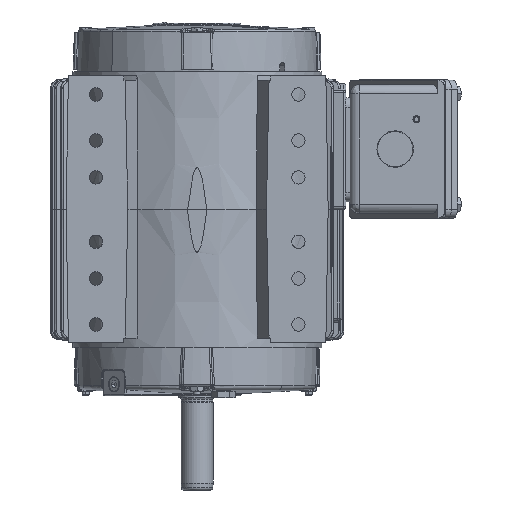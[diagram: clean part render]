
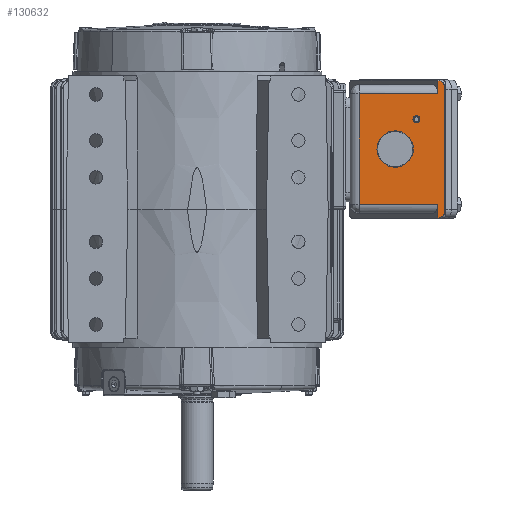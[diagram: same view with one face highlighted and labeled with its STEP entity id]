
A CAD part, front view. The second image highlights one B-rep face of the part: STEP entity #130632.
In plain terms, the highlighted planar face has unit normal (0, -1, 0).
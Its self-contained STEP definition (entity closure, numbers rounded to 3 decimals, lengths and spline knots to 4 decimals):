
#925 = CIRCLE ( 'NONE', #30164, 0.4944 ) ;
#1580 = VECTOR ( 'NONE', #94507, 39.3701 ) ;
#2651 = EDGE_CURVE ( 'NONE', #49224, #108018, #30765, .T. ) ;
#4221 = VERTEX_POINT ( 'NONE', #102777 ) ;
#8962 =( BOUNDED_CURVE ( )  B_SPLINE_CURVE ( 3, ( #96762, #84800, #53580, #128429 ),
 .UNSPECIFIED., .F., .F. ) 
 B_SPLINE_CURVE_WITH_KNOTS ( ( 4, 4 ),
 ( 0., 1.2505 ),
 .UNSPECIFIED. ) 
 CURVE ( )  GEOMETRIC_REPRESENTATION_ITEM ( )  RATIONAL_B_SPLINE_CURVE ( ( 1., 0.874, 0.874, 1. ) ) 
 REPRESENTATION_ITEM ( '' )  );
#9051 = CARTESIAN_POINT ( 'NONE',  ( 4.4, -1.9204, -4.8364 ) ) ;
#14725 = DIRECTION ( 'NONE',  ( 0., -1., 0. ) ) ;
#16265 = CARTESIAN_POINT ( 'NONE',  ( 4.8856, -1.9204, -3.0864 ) ) ;
#17088 = AXIS2_PLACEMENT_3D ( 'NONE', #32318, #33235, #96086 ) ;
#19066 = EDGE_LOOP ( 'NONE', ( #72896, #45988 ) ) ;
#20671 = CARTESIAN_POINT ( 'NONE',  ( 4.4, -1.9204, -4.5864 ) ) ;
#23873 = ORIENTED_EDGE ( 'NONE', *, *, #130715, .F. ) ;
#24650 = CARTESIAN_POINT ( 'NONE',  ( 6.709, -1.9204, -1.3364 ) ) ;
#25687 = FACE_BOUND ( 'NONE', #19066, .T. ) ;
#28395 = LINE ( 'NONE', #82391, #133494 ) ;
#28485 = AXIS2_PLACEMENT_3D ( 'NONE', #9051, #81896, #83664 ) ;
#29483 = CARTESIAN_POINT ( 'NONE',  ( 6.5446, -1.9204, -4.8464 ) ) ;
#30164 = AXIS2_PLACEMENT_3D ( 'NONE', #63322, #83964, #75214 ) ;
#30656 = EDGE_CURVE ( 'NONE', #55733, #43367, #28395, .T. ) ;
#30765 = LINE ( 'NONE', #100606, #73380 ) ;
#31780 = VECTOR ( 'NONE', #37449, 39.3701 ) ;
#32318 = CARTESIAN_POINT ( 'NONE',  ( 5.96, -1.9204, -2.2764 ) ) ;
#33111 = VECTOR ( 'NONE', #128602, 39.3701 ) ;
#33215 = LINE ( 'NONE', #29483, #67739 ) ;
#33235 = DIRECTION ( 'NONE',  ( 0., -1., 0. ) ) ;
#33444 = ORIENTED_EDGE ( 'NONE', *, *, #2651, .T. ) ;
#33547 = CARTESIAN_POINT ( 'NONE',  ( 5.865, -1.9204, -2.2764 ) ) ;
#34231 = VERTEX_POINT ( 'NONE', #129952 ) ;
#34721 = AXIS2_PLACEMENT_3D ( 'NONE', #56392, #14725, #66075 ) ;
#36118 = EDGE_CURVE ( 'NONE', #108018, #43367, #52270, .T. ) ;
#37449 = DIRECTION ( 'NONE',  ( 1., 0., 0. ) ) ;
#37756 = DIRECTION ( 'NONE',  ( 0., 0., -1. ) ) ;
#37779 =( BOUNDED_CURVE ( )  B_SPLINE_CURVE ( 3, ( #106570, #64788, #106135, #42799 ),
 .UNSPECIFIED., .F., .F. ) 
 B_SPLINE_CURVE_WITH_KNOTS ( ( 4, 4 ),
 ( 5.0327, 6.2832 ),
 .UNSPECIFIED. ) 
 CURVE ( )  GEOMETRIC_REPRESENTATION_ITEM ( )  RATIONAL_B_SPLINE_CURVE ( ( 1., 0.874, 0.874, 1. ) ) 
 REPRESENTATION_ITEM ( '' )  );
#39987 = CARTESIAN_POINT ( 'NONE',  ( 4.4, -1.9204, -4.5864 ) ) ;
#39990 = EDGE_CURVE ( 'NONE', #56580, #113308, #129901, .T. ) ;
#42799 = CARTESIAN_POINT ( 'NONE',  ( 6.709, -1.9204, -4.8464 ) ) ;
#43367 = VERTEX_POINT ( 'NONE', #55664 ) ;
#45651 = CARTESIAN_POINT ( 'NONE',  ( 5.38, -1.9204, -3.0864 ) ) ;
#45988 = ORIENTED_EDGE ( 'NONE', *, *, #39990, .F. ) ;
#46770 = CARTESIAN_POINT ( 'NONE',  ( 6.5446, -1.9204, -1.5864 ) ) ;
#47828 = CARTESIAN_POINT ( 'NONE',  ( 5.8744, -1.9204, -3.0864 ) ) ;
#48252 = LINE ( 'NONE', #39987, #31780 ) ;
#48507 = VERTEX_POINT ( 'NONE', #62337 ) ;
#49224 = VERTEX_POINT ( 'NONE', #113981 ) ;
#49351 = EDGE_CURVE ( 'NONE', #34231, #48507, #37779, .T. ) ;
#51599 = PLANE ( 'NONE',  #28485 ) ;
#52270 = LINE ( 'NONE', #84836, #1580 ) ;
#53580 = CARTESIAN_POINT ( 'NONE',  ( 6.6463, -1.9204, -1.2394 ) ) ;
#55109 = CARTESIAN_POINT ( 'NONE',  ( 6.709, -1.9204, -1.3364 ) ) ;
#55664 = CARTESIAN_POINT ( 'NONE',  ( 4.4, -1.9204, -1.5864 ) ) ;
#55733 = VERTEX_POINT ( 'NONE', #20671 ) ;
#55746 = EDGE_CURVE ( 'NONE', #105121, #49224, #8962, .T. ) ;
#56392 = CARTESIAN_POINT ( 'NONE',  ( 5.96, -1.9204, -2.2764 ) ) ;
#56580 = VERTEX_POINT ( 'NONE', #47828 ) ;
#62337 = CARTESIAN_POINT ( 'NONE',  ( 6.709, -1.9204, -4.8464 ) ) ;
#63322 = CARTESIAN_POINT ( 'NONE',  ( 5.38, -1.9204, -3.0864 ) ) ;
#63919 = ORIENTED_EDGE ( 'NONE', *, *, #30656, .F. ) ;
#64788 = CARTESIAN_POINT ( 'NONE',  ( 6.6463, -1.9204, -4.9435 ) ) ;
#66075 = DIRECTION ( 'NONE',  ( -1., 0., 0. ) ) ;
#66432 = ORIENTED_EDGE ( 'NONE', *, *, #90680, .T. ) ;
#67102 = ORIENTED_EDGE ( 'NONE', *, *, #134268, .T. ) ;
#67193 = DIRECTION ( 'NONE',  ( 0., -1., 0. ) ) ;
#67713 = EDGE_LOOP ( 'NONE', ( #114761, #23873 ) ) ;
#67739 = VECTOR ( 'NONE', #104246, 39.3701 ) ;
#72896 = ORIENTED_EDGE ( 'NONE', *, *, #117551, .F. ) ;
#73380 = VECTOR ( 'NONE', #37756, 39.3701 ) ;
#75214 = DIRECTION ( 'NONE',  ( -1., 0., 0. ) ) ;
#81896 = DIRECTION ( 'NONE',  ( 0., 1., 0. ) ) ;
#82391 = CARTESIAN_POINT ( 'NONE',  ( 4.4, -1.9204, -4.8364 ) ) ;
#83664 = DIRECTION ( 'NONE',  ( 1., 0., 0. ) ) ;
#83964 = DIRECTION ( 'NONE',  ( 0., -1., 0. ) ) ;
#84800 = CARTESIAN_POINT ( 'NONE',  ( 6.709, -1.9204, -1.2828 ) ) ;
#84836 = CARTESIAN_POINT ( 'NONE',  ( 4.4, -1.9204, -1.5864 ) ) ;
#88065 = FACE_BOUND ( 'NONE', #67713, .T. ) ;
#88111 = EDGE_CURVE ( 'NONE', #113594, #4221, #105892, .T. ) ;
#89391 = AXIS2_PLACEMENT_3D ( 'NONE', #45651, #67193, #119104 ) ;
#89690 = EDGE_CURVE ( 'NONE', #55733, #130473, #48252, .T. ) ;
#90680 = EDGE_CURVE ( 'NONE', #130473, #34231, #33215, .T. ) ;
#91321 = FACE_OUTER_BOUND ( 'NONE', #115718, .T. ) ;
#92933 = DIRECTION ( 'NONE',  ( 0., 0., 1. ) ) ;
#93541 = ORIENTED_EDGE ( 'NONE', *, *, #36118, .T. ) ;
#94507 = DIRECTION ( 'NONE',  ( -1., 0., 0. ) ) ;
#96086 = DIRECTION ( 'NONE',  ( -1., 0., 0. ) ) ;
#96762 = CARTESIAN_POINT ( 'NONE',  ( 6.709, -1.9204, -1.3364 ) ) ;
#100606 = CARTESIAN_POINT ( 'NONE',  ( 6.5446, -1.9204, -4.8464 ) ) ;
#101299 = ORIENTED_EDGE ( 'NONE', *, *, #55746, .T. ) ;
#102777 = CARTESIAN_POINT ( 'NONE',  ( 6.055, -1.9204, -2.2764 ) ) ;
#104246 = DIRECTION ( 'NONE',  ( 0., 0., -1. ) ) ;
#105121 = VERTEX_POINT ( 'NONE', #24650 ) ;
#105892 = CIRCLE ( 'NONE', #34721, 0.095 ) ;
#106135 = CARTESIAN_POINT ( 'NONE',  ( 6.709, -1.9204, -4.9 ) ) ;
#106570 = CARTESIAN_POINT ( 'NONE',  ( 6.5446, -1.9204, -4.9603 ) ) ;
#108018 = VERTEX_POINT ( 'NONE', #46770 ) ;
#110975 = CIRCLE ( 'NONE', #17088, 0.095 ) ;
#113308 = VERTEX_POINT ( 'NONE', #16265 ) ;
#113594 = VERTEX_POINT ( 'NONE', #33547 ) ;
#113981 = CARTESIAN_POINT ( 'NONE',  ( 6.5446, -1.9204, -1.2225 ) ) ;
#114761 = ORIENTED_EDGE ( 'NONE', *, *, #88111, .F. ) ;
#115718 = EDGE_LOOP ( 'NONE', ( #63919, #123258, #66432, #128987, #67102, #101299, #33444, #93541 ) ) ;
#117551 = EDGE_CURVE ( 'NONE', #113308, #56580, #925, .T. ) ;
#119104 = DIRECTION ( 'NONE',  ( -1., 0., 0. ) ) ;
#123258 = ORIENTED_EDGE ( 'NONE', *, *, #89690, .T. ) ;
#128429 = CARTESIAN_POINT ( 'NONE',  ( 6.5446, -1.9204, -1.2225 ) ) ;
#128602 = DIRECTION ( 'NONE',  ( 0., 0., 1. ) ) ;
#128987 = ORIENTED_EDGE ( 'NONE', *, *, #49351, .T. ) ;
#129739 = CARTESIAN_POINT ( 'NONE',  ( 6.5446, -1.9204, -4.5864 ) ) ;
#129901 = CIRCLE ( 'NONE', #89391, 0.4944 ) ;
#129952 = CARTESIAN_POINT ( 'NONE',  ( 6.5446, -1.9204, -4.9603 ) ) ;
#130473 = VERTEX_POINT ( 'NONE', #129739 ) ;
#130632 = ADVANCED_FACE ( 'NONE', ( #88065, #25687, #91321 ), #51599, .F. ) ;
#130715 = EDGE_CURVE ( 'NONE', #4221, #113594, #110975, .T. ) ;
#131624 = LINE ( 'NONE', #55109, #33111 ) ;
#133494 = VECTOR ( 'NONE', #92933, 39.3701 ) ;
#134268 = EDGE_CURVE ( 'NONE', #48507, #105121, #131624, .T. ) ;
